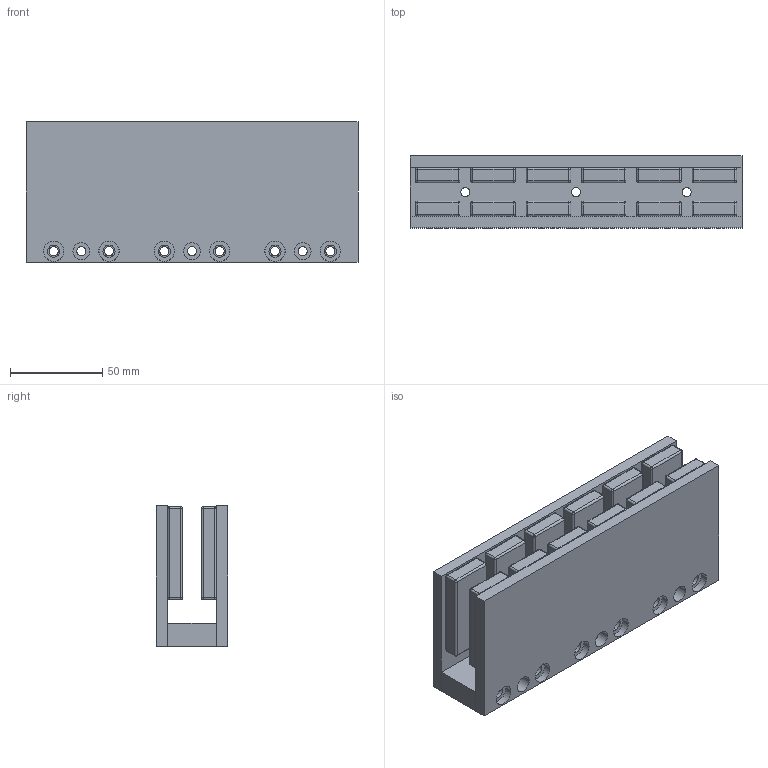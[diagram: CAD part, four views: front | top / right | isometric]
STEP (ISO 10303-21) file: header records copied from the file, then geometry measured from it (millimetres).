
FILE_DESCRIPTION (( 'STEP AP214' ), '1' );
FILE_NAME ('JKB4-180¶¨×Ó.STEP', '2025-09-05T12:47:54', ( '' ), ( '' ), 'SwSTEP 2.0', 'SolidWorks 2016', '' );
FILE_SCHEMA (( 'AUTOMOTIVE_DESIGN' ));
Length unit declared in the file: millimetre
Products named in the file (1): JKB4-180隅赽
Bounding box: 180 x 39 x 76.2 mm (x, y, z)
Volume: 338991.7 mm3; surface area: 123594.2 mm2
Topology: 15 solids, 15 shells, 462 faces, 1044 edges, 522 vertices
Faces by surface type: cylinder 240, plane 102, sphere 96, cone 24
Entity records: 17306 total; most frequent: DIRECTION 2330, CARTESIAN_POINT 2005, ORIENTED_EDGE 1896, EDGE_CURVE 948, AXIS2_PLACEMENT_3D 943, EDGE_LOOP 534, VERTEX_POINT 522, CIRCLE 480
